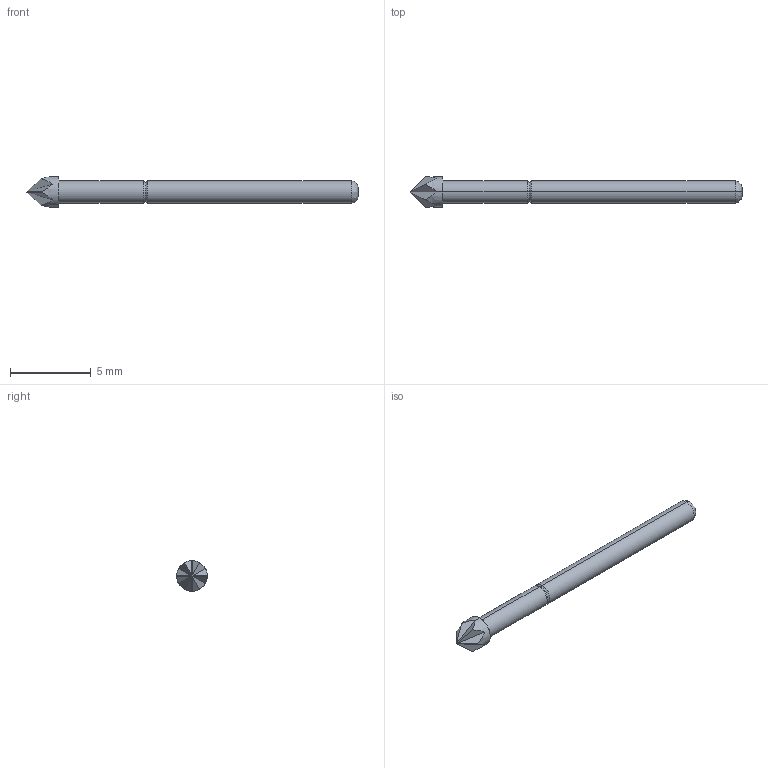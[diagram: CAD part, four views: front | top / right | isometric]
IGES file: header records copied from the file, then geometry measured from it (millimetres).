
Start section: SolidWorks IGES file using analytic representation for surfaces
Global section: file name: Z:\probe solid model mockups\Solidworks models\IGES Files\EPA-2\EPA-2P Full.IGS; native system: SolidWorks 2006 by SolidWorks Corporation; preprocessor: SolidWorks 2006 by SolidWorks Corporation; author: tsakatani; date: 071220.162404; units: inch
Bounding box: 20.57 x 1.91 x 1.91 mm (x, y, z)
Surface area: 92.6 mm2 (no closed solid volume)
Topology: 0 solids, 0 shells, 26 faces, 182 edges, 182 vertices
Faces by surface type: bspline 20, revolution 6
